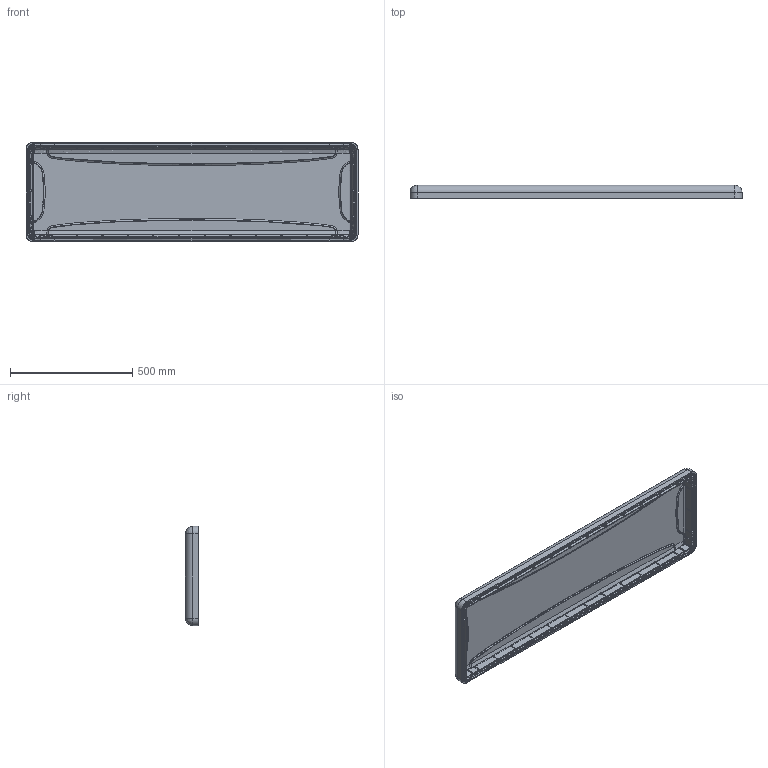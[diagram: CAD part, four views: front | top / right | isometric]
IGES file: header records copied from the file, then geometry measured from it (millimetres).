
Start section: SolidWorks IGES file using analytic representation for surfaces
Global section: file name: \\SBS\Data\NANUK\NANUK Marketing\NANUK Technical Drawings\3D Files\IGES\995\995_Top_INNER_SURFACES.IGS; native system: SolidWorks 2014; preprocessor: SolidWorks 2014; author: dposada; date: 150203.132657; units: millimetre
Bounding box: 1358.2 x 54 x 406.47 mm (x, y, z)
Surface area: 1621553.3 mm2 (no closed solid volume)
Topology: 0 solids, 0 shells, 2622 faces, 23128 edges, 23061 vertices
Faces by surface type: bspline 1402, revolution 1220
